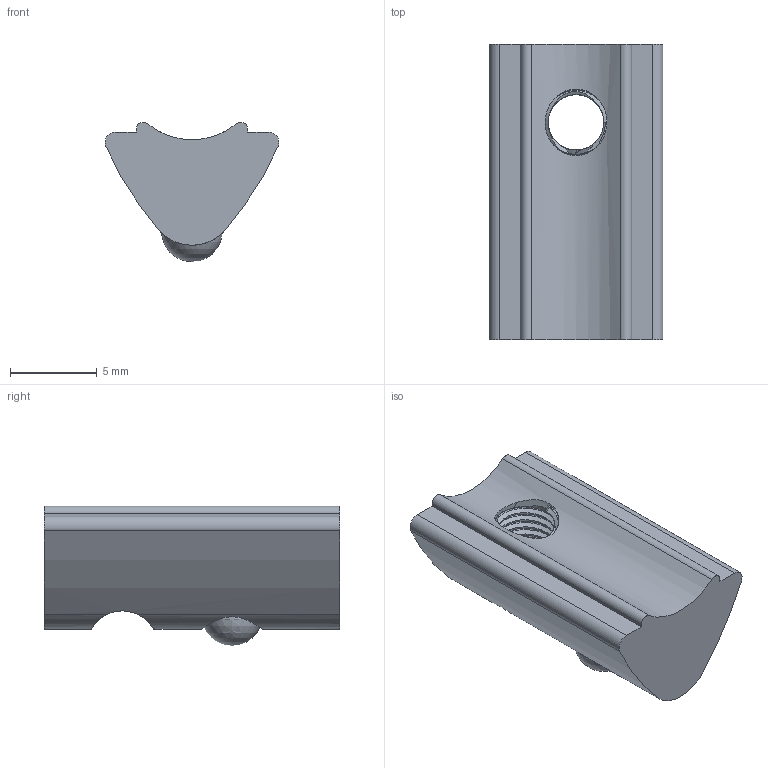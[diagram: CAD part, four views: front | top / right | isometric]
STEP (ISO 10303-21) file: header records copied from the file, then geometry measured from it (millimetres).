
FILE_DESCRIPTION(('FreeCAD Model'),'2;1');
FILE_NAME('Open CASCADE Shape Model','2021-05-04T11:37:01',('Author'),( ''),'Open CASCADE STEP processor 7.5','FreeCAD','Unknown');
FILE_SCHEMA(('AUTOMOTIVE_DESIGN { 1 0 10303 214 1 1 1 1 }'));
Length unit declared in the file: millimetre
Products named in the file (4): Unnamed; 1; 2; 3
Assembly tree (3 placements, depth 2):
  Unnamed
    1
    2
    3
Bounding box: 9.99 x 17 x 8.01 mm (x, y, z)
Volume: 681.5 mm3; surface area: 765.6 mm2
Topology: 3 solids, 3 shells, 47 faces, 127 edges, 85 vertices
Faces by surface type: bspline 20, cylinder 16, plane 10, sphere 1
Full cylindrical faces by diameter (mm): 3.5 x1
Entity records: 23165 total; most frequent: CARTESIAN_POINT 21040, DIRECTION 248, ORIENTED_EDGE 246, PCURVE 246, DEFINITIONAL_REPRESENTATION 246, B_SPLINE_CURVE_WITH_KNOTS 178, LINE 129, VECTOR 129
